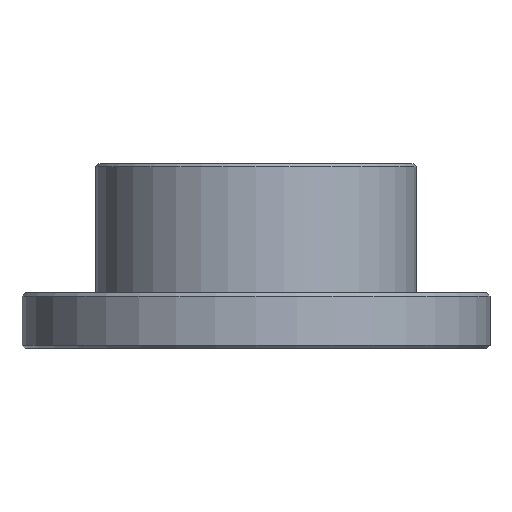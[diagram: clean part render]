
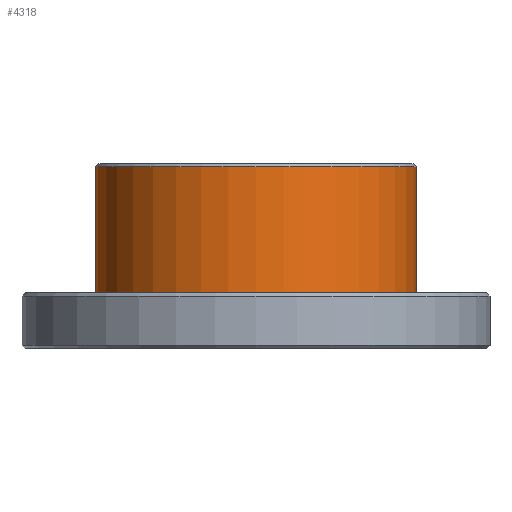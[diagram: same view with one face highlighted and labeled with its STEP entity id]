
A CAD part, front view. The second image highlights one B-rep face of the part: STEP entity #4318.
In plain terms, the highlighted cylindrical face has radius 26 mm (diameter 52 mm), a partial arc.
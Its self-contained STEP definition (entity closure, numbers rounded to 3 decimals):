
#19 = CARTESIAN_POINT ( 'NONE',  ( 26., 0., 29.5 ) ) ;
#94 = CARTESIAN_POINT ( 'NONE',  ( -26., 0., 9. ) ) ;
#424 = VECTOR ( 'NONE', #4907, 1000. ) ;
#555 = CARTESIAN_POINT ( 'NONE',  ( 26., 0., 9. ) ) ;
#1066 = AXIS2_PLACEMENT_3D ( 'NONE', #1483, #3492, #3000 ) ;
#1325 = VERTEX_POINT ( 'NONE', #555 ) ;
#1434 = VERTEX_POINT ( 'NONE', #19 ) ;
#1483 = CARTESIAN_POINT ( 'NONE',  ( 0., 0., 9. ) ) ;
#1484 = ORIENTED_EDGE ( 'NONE', *, *, #3391, .T. ) ;
#1490 = AXIS2_PLACEMENT_3D ( 'NONE', #3315, #3309, #3301 ) ;
#1496 = AXIS2_PLACEMENT_3D ( 'NONE', #3351, #3340, #3333 ) ;
#1908 = CIRCLE ( 'NONE', #1490, 26. ) ;
#2059 = CYLINDRICAL_SURFACE ( 'NONE', #1066, 26. ) ;
#2311 = VERTEX_POINT ( 'NONE', #5158 ) ;
#2871 = VECTOR ( 'NONE', #3874, 1000. ) ;
#2941 = EDGE_CURVE ( 'NONE', #4927, #2311, #4915, .T. ) ;
#2944 = EDGE_CURVE ( 'NONE', #1325, #1434, #4050, .T. ) ;
#3000 = DIRECTION ( 'NONE',  ( 1., 0., 0. ) ) ;
#3238 = CIRCLE ( 'NONE', #1496, 26. ) ;
#3301 = DIRECTION ( 'NONE',  ( 1., 0., 0. ) ) ;
#3309 = DIRECTION ( 'NONE',  ( 0., 0., -1. ) ) ;
#3315 = CARTESIAN_POINT ( 'NONE',  ( 0., 0., 29.5 ) ) ;
#3333 = DIRECTION ( 'NONE',  ( 1., 0., 0. ) ) ;
#3340 = DIRECTION ( 'NONE',  ( 0., 0., 1. ) ) ;
#3351 = CARTESIAN_POINT ( 'NONE',  ( 0., 0., 9. ) ) ;
#3390 = EDGE_CURVE ( 'NONE', #4927, #1325, #3238, .T. ) ;
#3391 = EDGE_CURVE ( 'NONE', #1434, #2311, #1908, .T. ) ;
#3492 = DIRECTION ( 'NONE',  ( 0., 0., 1. ) ) ;
#3625 = EDGE_LOOP ( 'NONE', ( #4147, #3751, #4683, #1484 ) ) ;
#3751 = ORIENTED_EDGE ( 'NONE', *, *, #3390, .T. ) ;
#3872 = FACE_OUTER_BOUND ( 'NONE', #3625, .T. ) ;
#3874 = DIRECTION ( 'NONE',  ( 0., 0., 1. ) ) ;
#4050 = LINE ( 'NONE', #4999, #424 ) ;
#4147 = ORIENTED_EDGE ( 'NONE', *, *, #2941, .F. ) ;
#4318 = ADVANCED_FACE ( 'NONE', ( #3872 ), #2059, .T. ) ;
#4683 = ORIENTED_EDGE ( 'NONE', *, *, #2944, .T. ) ;
#4907 = DIRECTION ( 'NONE',  ( 0., 0., 1. ) ) ;
#4915 = LINE ( 'NONE', #94, #2871 ) ;
#4927 = VERTEX_POINT ( 'NONE', #5056 ) ;
#4999 = CARTESIAN_POINT ( 'NONE',  ( 26., 0., 9. ) ) ;
#5056 = CARTESIAN_POINT ( 'NONE',  ( -26., 0., 9. ) ) ;
#5158 = CARTESIAN_POINT ( 'NONE',  ( -26., 0., 29.5 ) ) ;
